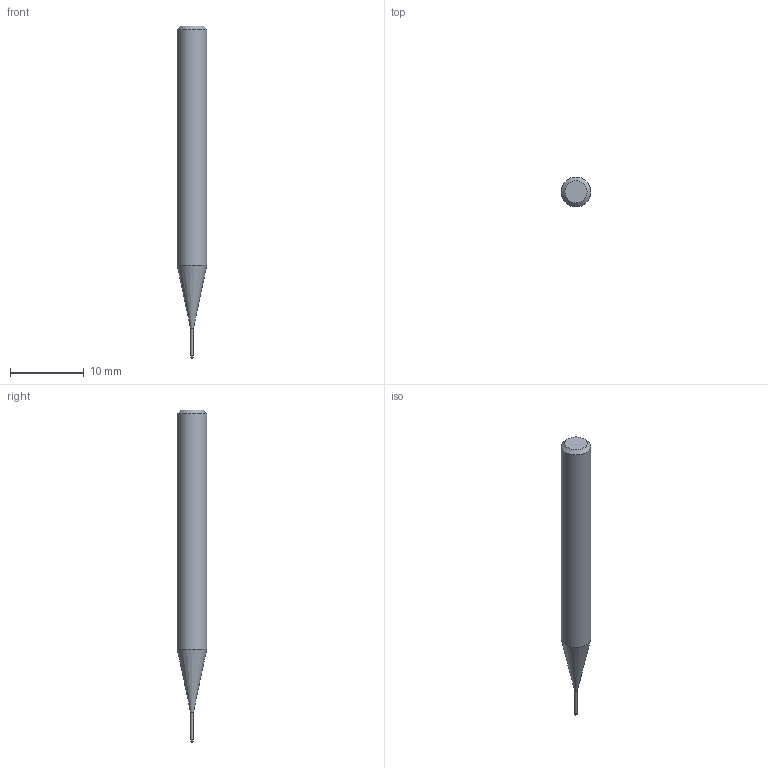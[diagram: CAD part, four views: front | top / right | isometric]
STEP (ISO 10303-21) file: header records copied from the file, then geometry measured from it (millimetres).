
FILE_DESCRIPTION((''),'2;1');
FILE_NAME('C:\Users\nsx150\AppData\Local\Temp\Mastercam 2021\3SYKECWX22\TEMP.step','2021-04-22T09:36:55',(''),(''),'STEP Write','Mastercam 2021 ... CNC Software, Inc.','');
FILE_SCHEMA(('AUTOMOTIVE_DESIGN'));
Length unit declared in the file: millimetre
Products named in the file (1): None
Bounding box: 4 x 4 x 45 mm (x, y, z)
Volume: 446.3 mm3; surface area: 481.4 mm2
Topology: 2 solids, 2 shells, 10 faces, 14 edges, 8 vertices
Faces by surface type: plane 4, cylinder 3, cone 2, torus 1
Full cylindrical faces by diameter (mm): 0.37 x1, 0.4 x1, 4 x1
Entity records: 232 total; most frequent: DIRECTION 40, CARTESIAN_POINT 28, AXIS2_PLACEMENT_3D 20, ORIENTED_EDGE 16, EDGE_LOOP 16, STYLED_ITEM 13, ADVANCED_FACE 10, FACE_BOUND 10
